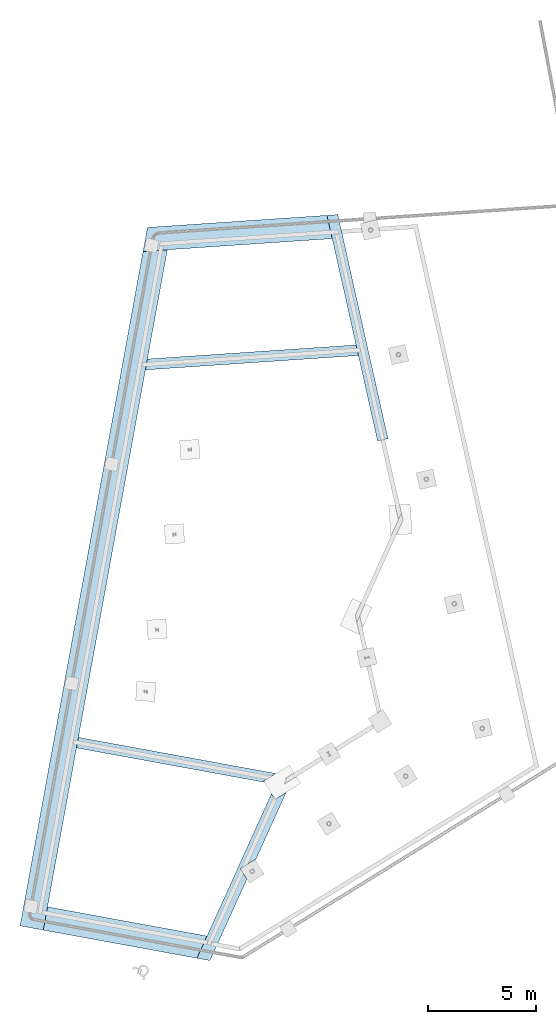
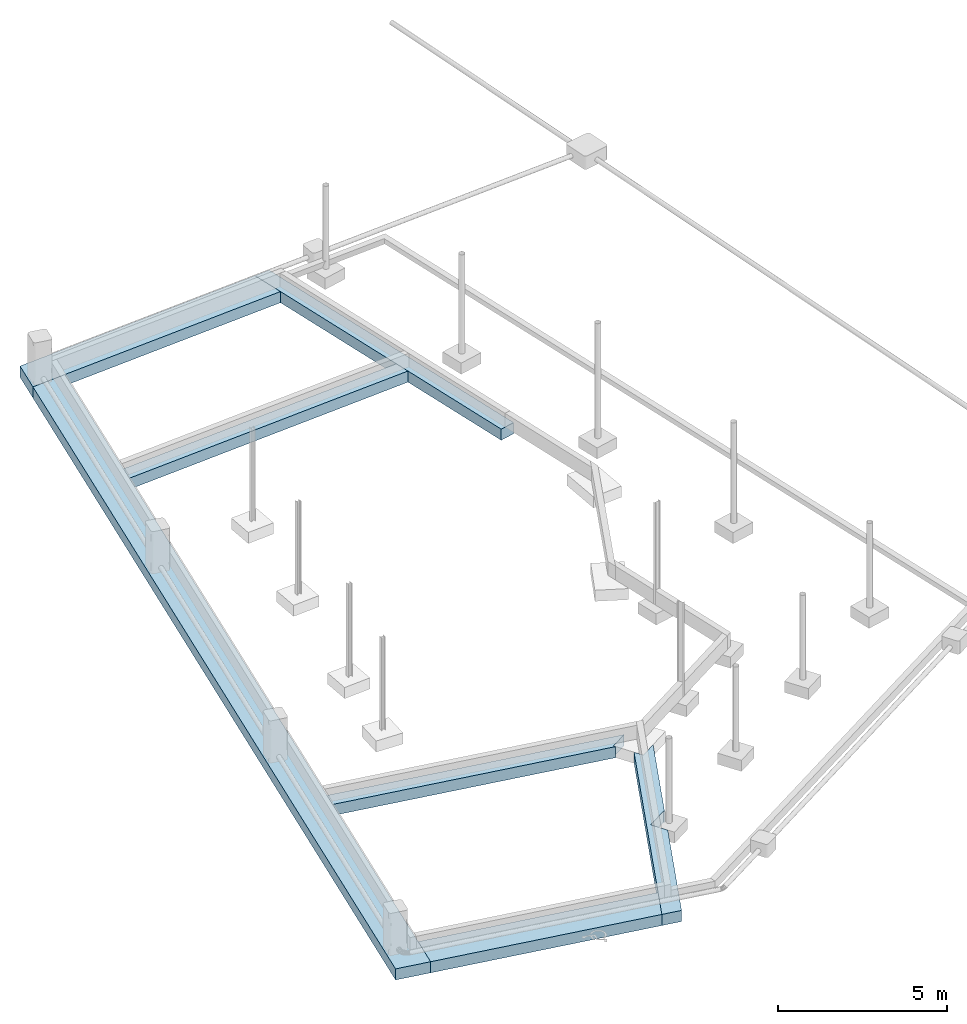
# One storey, part 1 of 17: 7 footings.
"""IFC2X3 building model written with IfcOpenShell, lengths in centimetres."""

from ifc_helpers import new_model, entity, si_unit, converted_unit, derived_unit, direction, frame, origin, place, context, subcontext, project, spatial, polyline, outline, extrude, material, element, save


model = new_model("IFC2X3")

# Units and contexts
model_context = context("Model", 3, precision=0.001, world=origin(), true_north=direction((6.12303176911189e-17, 1.0)))
body_context = subcontext(model_context, "Body", "Model", "MODEL_VIEW")
ifc_project = project(units=[si_unit("LENGTHUNIT", "METRE", prefix="CENTI"), si_unit("AREAUNIT", "SQUARE_METRE"), si_unit("VOLUMEUNIT", "CUBIC_METRE"), converted_unit("PLANEANGLEUNIT", "DEGREE", entity("IfcRatioMeasure", 0.0174532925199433), si_unit("PLANEANGLEUNIT", "RADIAN"), dimensions=[0, 0, 0, 0, 0, 0, 0]), si_unit("MASSUNIT", "GRAM", prefix="KILO"), derived_unit("MASSDENSITYUNIT", [(si_unit("MASSUNIT", "GRAM", prefix="KILO"), 1), (si_unit("LENGTHUNIT", "METRE"), -3)]), si_unit("TIMEUNIT", "SECOND"), si_unit("FREQUENCYUNIT", "HERTZ"), si_unit("THERMODYNAMICTEMPERATUREUNIT", "DEGREE_CELSIUS"), derived_unit("THERMALTRANSMITTANCEUNIT", [(si_unit("MASSUNIT", "GRAM", prefix="KILO"), 1), (si_unit("THERMODYNAMICTEMPERATUREUNIT", "KELVIN"), -1), (si_unit("TIMEUNIT", "SECOND"), -3)]), derived_unit("VOLUMETRICFLOWRATEUNIT", [(si_unit("LENGTHUNIT", "METRE"), 3), (si_unit("TIMEUNIT", "SECOND"), -1)]), si_unit("ELECTRICCURRENTUNIT", "AMPERE"), si_unit("ELECTRICVOLTAGEUNIT", "VOLT"), si_unit("POWERUNIT", "WATT"), si_unit("FORCEUNIT", "NEWTON", prefix="KILO"), si_unit("ILLUMINANCEUNIT", "LUX"), si_unit("LUMINOUSFLUXUNIT", "LUMEN"), si_unit("LUMINOUSINTENSITYUNIT", "CANDELA"), derived_unit("USERDEFINED", [(si_unit("MASSUNIT", "GRAM", prefix="KILO"), -1), (si_unit("LENGTHUNIT", "METRE"), -2), (si_unit("TIMEUNIT", "SECOND"), 3), (si_unit("LUMINOUSFLUXUNIT", "LUMEN"), 1)]), derived_unit("LINEARVELOCITYUNIT", [(si_unit("LENGTHUNIT", "METRE"), 1), (si_unit("TIMEUNIT", "SECOND"), -1)]), si_unit("PRESSUREUNIT", "PASCAL"), derived_unit("USERDEFINED", [(si_unit("LENGTHUNIT", "METRE"), -2), (si_unit("MASSUNIT", "GRAM", prefix="KILO"), 1), (si_unit("TIMEUNIT", "SECOND"), -2)])], contexts=[model_context])

# Site, building, storey
site_placement = place(None, frame((2611.71187422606, 13650.4058644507, 0.0), z_axis=(0.0, 0.0, 1.0), x_axis=(0.0673222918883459, -0.997731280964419, 0.0)))
site = spatial("IfcSite", under=ifc_project, at=site_placement, Name="Surface", CompositionType="ELEMENT")
building_placement = place(site_placement, origin())
building = spatial("IfcBuilding", under=site, at=building_placement, CompositionType="ELEMENT")
storey_placement = place(building_placement, frame((0.0, 0.0, 86950.0)))
storey = spatial("IfcBuildingStorey", under=building, at=storey_placement, Name="-1 Soubassement", CompositionType="ELEMENT", Elevation=86950.0)

# Footings
ifc_material = material(Name="Maçonnerie - Béton")
footing_1_placement = place(storey_placement, origin())
element("IfcFooting", 1, at=footing_1_placement, inside=storey, material=ifc_material, Name="Semelle filante:SF1", ObjectType="Semelle filante:SF1", PredefinedType="STRIP_FOOTING", context=body_context, shape_type="SweptSolid", body=[
    extrude(outline(polyline([(-496.564877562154, -25.0), (494.094301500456, -25.0), (486.387596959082, 25.0), (-483.917020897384, 25.0), (-496.564877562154, -25.0)])), frame((2509.65091129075, 585.642974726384, -40.0), z_axis=(0.0, 0.0, 1.0), x_axis=(0.0, 1.0, 0.0)), (0.0, 0.0, 1.0), 40.0000000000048),
])
footing_2_placement = place(storey_placement, origin())
element("IfcFooting", 2, at=footing_2_placement, inside=storey, material=ifc_material, Name="Semelle filante:SF1", ObjectType="Semelle filante:SF1", PredefinedType="STRIP_FOOTING", context=body_context, shape_type="SweptSolid", body=[
    extrude(outline(polyline([(-540.232968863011, -21.0852980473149), (347.087956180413, -21.0852980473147), (342.161001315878, -15.6588078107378), (391.253741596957, 28.9147019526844), (-540.269730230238, 28.9147019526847), (-540.232968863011, -21.0852980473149)])), frame((4376.44622876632, 180.44768779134, -40.0), z_axis=(0.0, 0.0, 1.0), x_axis=(0.245945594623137, 0.969283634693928, 0.0)), (0.0, 0.0, 1.0), 40.0000000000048),
])
footing_3_placement = place(storey_placement, origin())
element("IfcFooting", 3, at=footing_3_placement, inside=storey, material=ifc_material, Name="Semelle filante:SF1", ObjectType="Semelle filante:SF1", PredefinedType="STRIP_FOOTING", context=body_context, shape_type="SweptSolid", body=[
    extrude(outline(polyline([(-566.765347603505, -35.7142857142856), (499.59139391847, -35.7142857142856), (507.298098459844, 14.2857142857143), (395.999115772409, 14.2857142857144), (-109.383733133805, 14.2857142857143), (-159.974179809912, 14.2857142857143), (-566.765347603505, 14.2857142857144), (-566.765347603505, -35.7142857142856)])), frame((2374.36759097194, 1069.48656571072, -40.0), z_axis=(0.0, 0.0, 1.0), x_axis=(-0.988328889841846, -0.152335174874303, 0.0)), (0.0, 0.0, 1.0), 40.0000000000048),
])
footing_4_placement = place(storey_placement, origin())
element("IfcFooting", 4, at=footing_4_placement, inside=storey, material=ifc_material, Name="Semelle filante:SF3", ObjectType="Semelle filante:SF3", PredefinedType="STRIP_FOOTING", context=body_context, shape_type="SweptSolid", body=[
    extrude(outline(polyline([(-446.088752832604, -26.4979993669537), (-30.6483888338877, -26.4979993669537), (1.24119904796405, 21.2060093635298), (67.7492424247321, -23.2538620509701), (65.5805734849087, -26.4979993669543), (411.784453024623, -26.4979993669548), (360.875812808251, 7.53384825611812), (378.235227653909, 33.5020006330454), (-347.680933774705, 33.5020006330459), (-461.048433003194, 33.5020006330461), (-446.088752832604, -26.4979993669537)])), frame((4885.56505746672, 391.09045359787, -40.0), z_axis=(0.0, 0.0, 1.0), x_axis=(-0.880992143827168, 0.473130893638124, 0.0)), (0.0, 0.0, 1.0), 40.0000000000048),
])
footing_5_placement = place(storey_placement, origin())
element("IfcFooting", 5, at=footing_5_placement, inside=storey, material=ifc_material, Name="Semelle filante:SF2", ObjectType="Semelle filante:SF2", PredefinedType="STRIP_FOOTING", context=body_context, shape_type="SweptSolid", body=[
    extrude(outline(polyline([(-377.040498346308, -44.0), (-263.575761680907, -44.0), (503.393111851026, -44.0), (486.438361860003, 66.0), (-349.215213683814, 66.0), (-377.040498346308, -44.0)])), frame((1941.16644128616, 491.649875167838, -40.0), z_axis=(0.0, 0.0, 1.0), x_axis=(0.0, 1.0, 0.0)), (0.0, 0.0, 1.0), 40.0000000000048),
])
footing_6_placement = place(storey_placement, origin())
element("IfcFooting", 6, at=footing_6_placement, inside=storey, material=ifc_material, Name="Semelle filante:SF2", ObjectType="Semelle filante:SF2", PredefinedType="STRIP_FOOTING", context=body_context, shape_type="SweptSolid", body=[
    extrude(outline(polyline([(-1512.4201764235, -24.444444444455), (-1402.42014669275, -24.4444444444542), (-652.582896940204, -24.444444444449), (-602.582883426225, -24.4444444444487), (1131.25299462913, -24.4444444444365), (1182.82787493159, -24.4444444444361), (1698.04491000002, -24.4444444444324), (1670.21962533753, 85.5555555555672), (-1512.3393014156, 85.5555555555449), (-1512.4201764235, -24.444444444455)])), frame((3625.36560751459, -212.040351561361, -40.0), z_axis=(0.0, 0.0, 1.0), x_axis=(-0.969464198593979, 0.245232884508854, 0.0)), (0.0, 0.0, 1.0), 40.0000000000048),
])
footing_7_placement = place(storey_placement, origin())
element("IfcFooting", 7, at=footing_7_placement, inside=storey, material=ifc_material, Name="Semelle filante:SF2", ObjectType="Semelle filante:SF2", PredefinedType="STRIP_FOOTING", context=body_context, shape_type="SweptSolid", body=[
    extrude(outline(polyline([(-383.061955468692, -55.0), (369.389352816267, -55.0), (369.308477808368, 55.0), (-355.635875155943, 55.0), (-383.061955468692, -55.0)])), frame((5135.11659667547, -187.745828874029, -40.0), z_axis=(0.0, 0.0, 1.0), x_axis=(-0.24594559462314, -0.969283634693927, 0.0)), (0.0, 0.0, 1.0), 40.0000000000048),
])

save(model, "model.ifc")
